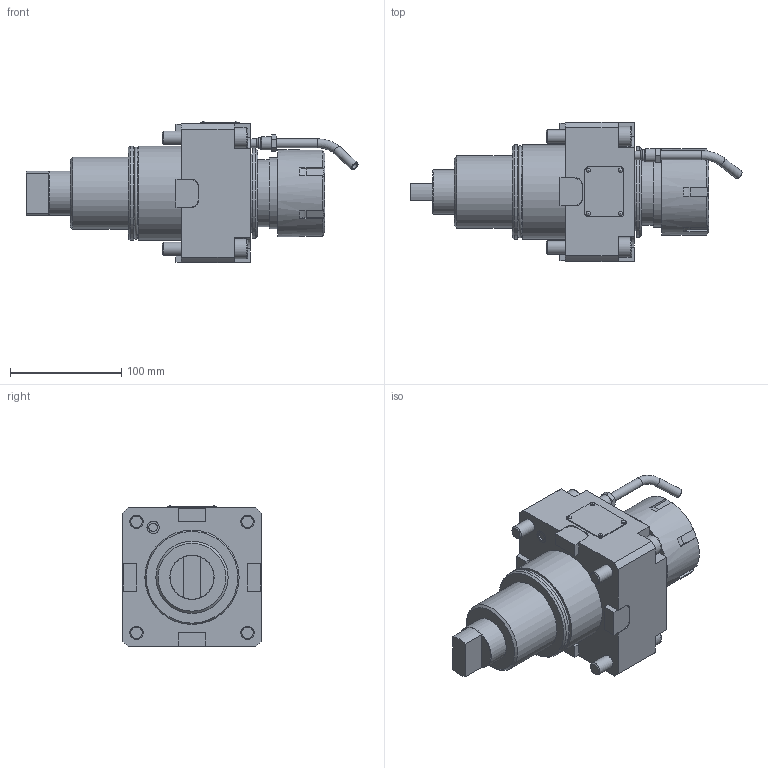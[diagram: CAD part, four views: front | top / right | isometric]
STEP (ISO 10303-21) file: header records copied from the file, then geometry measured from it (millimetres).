
FILE_DESCRIPTION(/* description */ (''),/* implementation_level */ '2;1');
FILE_NAME(/* name */ '198262-UNI',/* time_stamp */ '2022-07-04T11:33:34+02:00',/* author */ (''),/* organization */ (''),/* preprocessor_version */ 'ST-DEVELOPER v16.5',/* originating_system */ 'HiCAD 2017 2201.0 Build 268',/* authorisation */ '');
FILE_SCHEMA (('AUTOMOTIVE_DESIGN { 1 0 10303 214 1 1 1 1 }'));
Length unit declared in the file: millimetre
Products named in the file (2): Root; Teil
Assembly tree (1 placements, depth 2):
  Root
    Teil
Bounding box: 298.93 x 125 x 127.3 mm (x, y, z)
Volume: 1564724.2 mm3; surface area: 152117.9 mm2
Topology: 2 solids, 7 shells, 350 faces, 852 edges, 553 vertices
Faces by surface type: plane 229, cylinder 85, cone 24, torus 8, sphere 4
Full cylindrical faces by diameter (mm): 2 x4, 2.2 x4, 6 x2, 7.65 x1, 8 x3, 8.1 x1, 8.25 x1, 10 x2, 11 x1, 11.01 x1, 11.1 x1, 12 x6, 18 x4, 36 x1, 38 x1, 40 x1, 55 x1, 60 x1, 62 x1, 64 x1, 65 x2, 68 x1, 70 x1, 75 x1, 78 x1, 80.3 x2, 81.5 x1, 84.9 x2
Entity records: 17735 total; most frequent: CARTESIAN_POINT 2563, DIRECTION 1700, PRESENTATION_STYLE_ASSIGNMENT 1455, COLOUR_RGB 1455, DRAUGHTING_PRE_DEFINED_CURVE_FONT 1454, CURVE_STYLE 1454, OVER_RIDING_STYLED_ITEM 1454, ORIENTED_EDGE 1454
